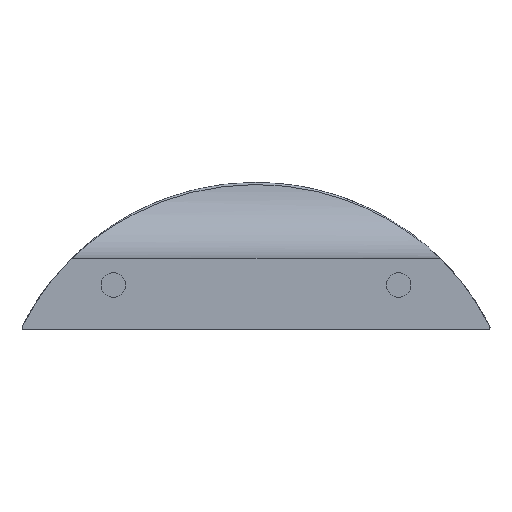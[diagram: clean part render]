
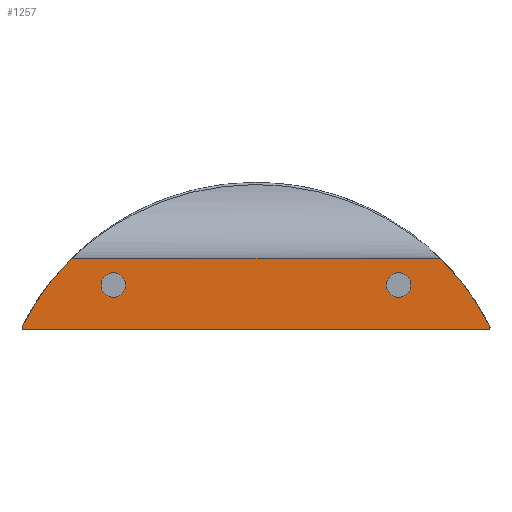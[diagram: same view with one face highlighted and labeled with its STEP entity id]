
A CAD part, front view. The second image highlights one B-rep face of the part: STEP entity #1257.
In plain terms, the highlighted planar face has unit normal (0, -1, 0).
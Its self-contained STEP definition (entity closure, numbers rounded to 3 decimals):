
#37 = VERTEX_POINT ( 'NONE', #347 ) ;
#46 = ORIENTED_EDGE ( 'NONE', *, *, #1330, .F. ) ;
#63 = AXIS2_PLACEMENT_3D ( 'NONE', #155, #615, #319 ) ;
#66 = DIRECTION ( 'NONE',  ( 0., 0., -1. ) ) ;
#73 = EDGE_CURVE ( 'NONE', #303, #1638, #1794, .T. ) ;
#89 = DIRECTION ( 'NONE',  ( 0., 1., 0. ) ) ;
#100 = CARTESIAN_POINT ( 'NONE',  ( 32., 0., 7.25 ) ) ;
#126 = DIRECTION ( 'NONE',  ( -1., 0., 0. ) ) ;
#133 = DIRECTION ( 'NONE',  ( 0., 0., 1. ) ) ;
#134 = EDGE_LOOP ( 'NONE', ( #598, #1184 ) ) ;
#155 = CARTESIAN_POINT ( 'NONE',  ( 32., 0., 10. ) ) ;
#162 = FACE_BOUND ( 'NONE', #134, .T. ) ;
#166 = B_SPLINE_CURVE_WITH_KNOTS ( 'NONE', 3,
 ( #286, #1039, #569, #1754 ),
 .UNSPECIFIED., .F., .F.,
 ( 4, 4 ),
 ( 0., 1. ),
 .UNSPECIFIED. ) ;
#215 = VECTOR ( 'NONE', #1050, 1000. ) ;
#254 = CARTESIAN_POINT ( 'NONE',  ( -51.994, 0., 0.5 ) ) ;
#259 = CARTESIAN_POINT ( 'NONE',  ( -32., 0., 10. ) ) ;
#263 = DIRECTION ( 'NONE',  ( 0., -1., 0. ) ) ;
#286 = CARTESIAN_POINT ( 'NONE',  ( -41.124, 0., 16. ) ) ;
#289 = VERTEX_POINT ( 'NONE', #737 ) ;
#291 = EDGE_LOOP ( 'NONE', ( #46, #1275, #1341, #406, #1896, #335, #1017, #856 ) ) ;
#299 = DIRECTION ( 'NONE',  ( 0., 0., -1. ) ) ;
#303 = VERTEX_POINT ( 'NONE', #1175 ) ;
#306 = CARTESIAN_POINT ( 'NONE',  ( 41.384, 0., 15.947 ) ) ;
#308 = AXIS2_PLACEMENT_3D ( 'NONE', #259, #1890, #566 ) ;
#319 = DIRECTION ( 'NONE',  ( 0., 0., 1. ) ) ;
#320 = CIRCLE ( 'NONE', #397, 0.5 ) ;
#328 = EDGE_CURVE ( 'NONE', #843, #880, #911, .T. ) ;
#335 = ORIENTED_EDGE ( 'NONE', *, *, #1156, .T. ) ;
#347 = CARTESIAN_POINT ( 'NONE',  ( -32., 0., 7.25 ) ) ;
#397 = AXIS2_PLACEMENT_3D ( 'NONE', #853, #728, #299 ) ;
#406 = ORIENTED_EDGE ( 'NONE', *, *, #328, .T. ) ;
#415 = DIRECTION ( 'NONE',  ( 0., -1., 0. ) ) ;
#421 = FACE_OUTER_BOUND ( 'NONE', #291, .T. ) ;
#435 = CARTESIAN_POINT ( 'NONE',  ( 41.124, 0., 16. ) ) ;
#441 = CARTESIAN_POINT ( 'NONE',  ( -41.477, 0., 15.854 ) ) ;
#444 = ORIENTED_EDGE ( 'NONE', *, *, #1569, .T. ) ;
#468 = DIRECTION ( 'NONE',  ( 0., 0., -1. ) ) ;
#514 = EDGE_CURVE ( 'NONE', #1413, #37, #857, .T. ) ;
#550 = AXIS2_PLACEMENT_3D ( 'NONE', #881, #1206, #468 ) ;
#566 = DIRECTION ( 'NONE',  ( 0., 0., 1. ) ) ;
#569 = CARTESIAN_POINT ( 'NONE',  ( -41.383, 0., 15.948 ) ) ;
#574 = CARTESIAN_POINT ( 'NONE',  ( 52.8, 0., 0. ) ) ;
#581 = CARTESIAN_POINT ( 'NONE',  ( 0., 0., -25.74 ) ) ;
#598 = ORIENTED_EDGE ( 'NONE', *, *, #1502, .T. ) ;
#615 = DIRECTION ( 'NONE',  ( 0., 1., 0. ) ) ;
#660 = EDGE_CURVE ( 'NONE', #289, #1648, #1055, .T. ) ;
#669 = AXIS2_PLACEMENT_3D ( 'NONE', #254, #1226, #66 ) ;
#717 = EDGE_CURVE ( 'NONE', #880, #1512, #1336, .T. ) ;
#722 = FACE_BOUND ( 'NONE', #1134, .T. ) ;
#728 = DIRECTION ( 'NONE',  ( 0., -1., 0. ) ) ;
#737 = CARTESIAN_POINT ( 'NONE',  ( 32., 0., 12.75 ) ) ;
#772 = CIRCLE ( 'NONE', #833, 58.74 ) ;
#833 = AXIS2_PLACEMENT_3D ( 'NONE', #581, #415, #1596 ) ;
#843 = VERTEX_POINT ( 'NONE', #1881 ) ;
#853 = CARTESIAN_POINT ( 'NONE',  ( 51.994, 0., 0.5 ) ) ;
#856 = ORIENTED_EDGE ( 'NONE', *, *, #73, .T. ) ;
#857 = CIRCLE ( 'NONE', #308, 2.75 ) ;
#865 = CARTESIAN_POINT ( 'NONE',  ( 41.124, 0., 16. ) ) ;
#866 = CARTESIAN_POINT ( 'NONE',  ( 32., 0., 10. ) ) ;
#880 = VERTEX_POINT ( 'NONE', #865 ) ;
#881 = CARTESIAN_POINT ( 'NONE',  ( 52.8, 0., 0. ) ) ;
#893 = VERTEX_POINT ( 'NONE', #441 ) ;
#894 = PLANE ( 'NONE',  #550 ) ;
#907 = AXIS2_PLACEMENT_3D ( 'NONE', #866, #1288, #133 ) ;
#911 = B_SPLINE_CURVE_WITH_KNOTS ( 'NONE', 3,
 ( #1033, #306, #1334, #435 ),
 .UNSPECIFIED., .F., .F.,
 ( 4, 4 ),
 ( 0., 1. ),
 .UNSPECIFIED. ) ;
#1017 = ORIENTED_EDGE ( 'NONE', *, *, #1038, .T. ) ;
#1026 = CARTESIAN_POINT ( 'NONE',  ( 52.44, 0., 0.725 ) ) ;
#1033 = CARTESIAN_POINT ( 'NONE',  ( 41.477, 0., 15.854 ) ) ;
#1038 = EDGE_CURVE ( 'NONE', #893, #303, #772, .T. ) ;
#1039 = CARTESIAN_POINT ( 'NONE',  ( -41.255, 0., 16. ) ) ;
#1050 = DIRECTION ( 'NONE',  ( -1., 0., 0. ) ) ;
#1055 = CIRCLE ( 'NONE', #63, 2.75 ) ;
#1134 = EDGE_LOOP ( 'NONE', ( #444, #1327 ) ) ;
#1142 = EDGE_CURVE ( 'NONE', #1196, #843, #1398, .T. ) ;
#1144 = VECTOR ( 'NONE', #126, 1000. ) ;
#1145 = CARTESIAN_POINT ( 'NONE',  ( -41.124, 0., 16. ) ) ;
#1156 = EDGE_CURVE ( 'NONE', #1512, #893, #166, .T. ) ;
#1175 = CARTESIAN_POINT ( 'NONE',  ( -52.44, 0., 0.725 ) ) ;
#1184 = ORIENTED_EDGE ( 'NONE', *, *, #514, .T. ) ;
#1189 = EDGE_CURVE ( 'NONE', #1339, #1196, #320, .T. ) ;
#1190 = CARTESIAN_POINT ( 'NONE',  ( 52.8, 0., 16. ) ) ;
#1196 = VERTEX_POINT ( 'NONE', #1026 ) ;
#1206 = DIRECTION ( 'NONE',  ( 0., -1., 0. ) ) ;
#1226 = DIRECTION ( 'NONE',  ( 0., -1., 0. ) ) ;
#1242 = CIRCLE ( 'NONE', #907, 2.75 ) ;
#1257 = ADVANCED_FACE ( 'NONE', ( #722, #162, #421 ), #894, .T. ) ;
#1264 = CARTESIAN_POINT ( 'NONE',  ( -32., 0., 12.75 ) ) ;
#1275 = ORIENTED_EDGE ( 'NONE', *, *, #1189, .T. ) ;
#1288 = DIRECTION ( 'NONE',  ( 0., 1., 0. ) ) ;
#1307 = CARTESIAN_POINT ( 'NONE',  ( 51.994, 0., 0. ) ) ;
#1313 = CARTESIAN_POINT ( 'NONE',  ( 0., 0., -25.74 ) ) ;
#1327 = ORIENTED_EDGE ( 'NONE', *, *, #660, .T. ) ;
#1330 = EDGE_CURVE ( 'NONE', #1339, #1638, #1450, .T. ) ;
#1334 = CARTESIAN_POINT ( 'NONE',  ( 41.257, 0., 16. ) ) ;
#1336 = LINE ( 'NONE', #1190, #215 ) ;
#1339 = VERTEX_POINT ( 'NONE', #1307 ) ;
#1341 = ORIENTED_EDGE ( 'NONE', *, *, #1142, .T. ) ;
#1398 = CIRCLE ( 'NONE', #1577, 58.74 ) ;
#1411 = CARTESIAN_POINT ( 'NONE',  ( -32., 0., 10. ) ) ;
#1413 = VERTEX_POINT ( 'NONE', #1264 ) ;
#1450 = LINE ( 'NONE', #574, #1144 ) ;
#1498 = AXIS2_PLACEMENT_3D ( 'NONE', #1411, #89, #1570 ) ;
#1502 = EDGE_CURVE ( 'NONE', #37, #1413, #1682, .T. ) ;
#1512 = VERTEX_POINT ( 'NONE', #1145 ) ;
#1557 = CARTESIAN_POINT ( 'NONE',  ( -51.994, 0., 0. ) ) ;
#1569 = EDGE_CURVE ( 'NONE', #1648, #289, #1242, .T. ) ;
#1570 = DIRECTION ( 'NONE',  ( 0., 0., 1. ) ) ;
#1577 = AXIS2_PLACEMENT_3D ( 'NONE', #1313, #263, #1893 ) ;
#1596 = DIRECTION ( 'NONE',  ( 0., 0., -1. ) ) ;
#1638 = VERTEX_POINT ( 'NONE', #1557 ) ;
#1648 = VERTEX_POINT ( 'NONE', #100 ) ;
#1682 = CIRCLE ( 'NONE', #1498, 2.75 ) ;
#1754 = CARTESIAN_POINT ( 'NONE',  ( -41.477, 0., 15.854 ) ) ;
#1794 = CIRCLE ( 'NONE', #669, 0.5 ) ;
#1881 = CARTESIAN_POINT ( 'NONE',  ( 41.477, 0., 15.854 ) ) ;
#1890 = DIRECTION ( 'NONE',  ( 0., 1., 0. ) ) ;
#1893 = DIRECTION ( 'NONE',  ( 0., 0., -1. ) ) ;
#1896 = ORIENTED_EDGE ( 'NONE', *, *, #717, .T. ) ;
